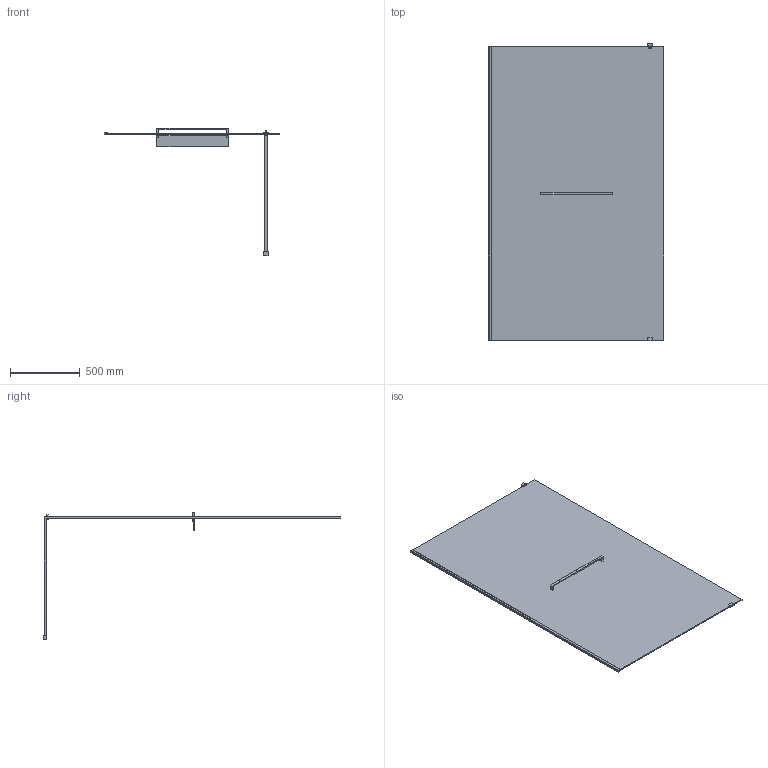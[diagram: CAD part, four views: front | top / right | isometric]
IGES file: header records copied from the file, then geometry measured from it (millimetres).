
Start section: SolidWorks IGES file using analytic representation for surfaces
Global section: file name: D:\Users\M.Szymanski\Desktop\Kabiny\PIII_ALTIIa\03. do przegrania\PIII_ALTIIa_130_z_relingiem_i_polka_K3D.IGS; native system: SolidWorks 2011; preprocessor: SolidWorks 2011; author: M.Szymanski; date: 181005.105414; units: millimetre
Bounding box: 1258.45 x 2128 x 914.13 mm (x, y, z)
Surface area: 5717024.5 mm2 (no closed solid volume)
Topology: 0 solids, 0 shells, 76 faces, 552 edges, 736 vertices
Faces by surface type: bspline 76
